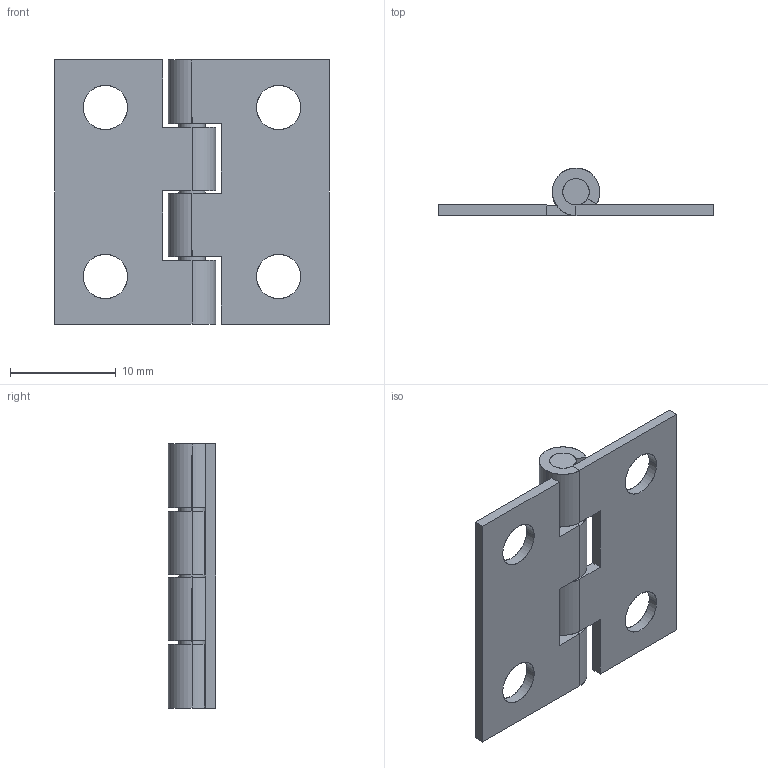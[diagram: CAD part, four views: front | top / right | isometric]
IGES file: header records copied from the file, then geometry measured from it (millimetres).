
Start section: SolidWorks IGES file using analytic representation for surfaces
Global section: file name: C:\Users\cbrechard\Desktop\CC 425.IGS; native system: SolidWorks 2008; preprocessor: SolidWorks 2008; author: cbrechard; date: 140107.173527; units: millimetre
Bounding box: 26 x 4.5 x 25 mm (x, y, z)
Surface area: 1987.3 mm2 (no closed solid volume)
Topology: 0 solids, 0 shells, 68 faces, 1008 edges, 1008 vertices
Faces by surface type: revolution 34, bspline 34
